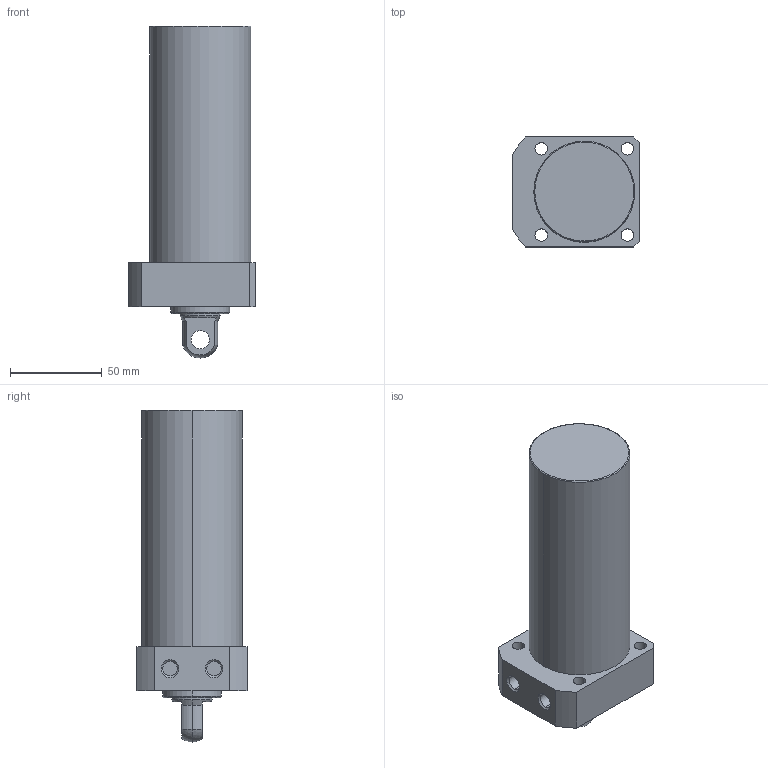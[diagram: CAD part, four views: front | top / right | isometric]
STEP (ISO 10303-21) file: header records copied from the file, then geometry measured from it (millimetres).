
FILE_DESCRIPTION (( 'STEP AP203' ), '1' );
FILE_NAME ('CLLR055-CP-0100.STEP', '2017-05-16T03:24:23', ( '' ), ( '' ), 'SwSTEP 2.0', 'SolidWorks 2015', '' );
FILE_SCHEMA (( 'CONFIG_CONTROL_DESIGN' ));
Length unit declared in the file: millimetre
Products named in the file (1): CLLR055-CP-0100
Bounding box: 69 x 60 x 181 mm (x, y, z)
Volume: 406005.9 mm3; surface area: 40507.7 mm2
Topology: 1 solids, 1 shells, 59 faces, 139 edges, 89 vertices
Faces by surface type: cylinder 29, plane 18, cone 8, torus 2, sphere 2
Entity records: 1822 total; most frequent: DIRECTION 331, CARTESIAN_POINT 300, ORIENTED_EDGE 278, EDGE_CURVE 139, AXIS2_PLACEMENT_3D 136, VERTEX_POINT 89, EDGE_LOOP 76, CIRCLE 76
